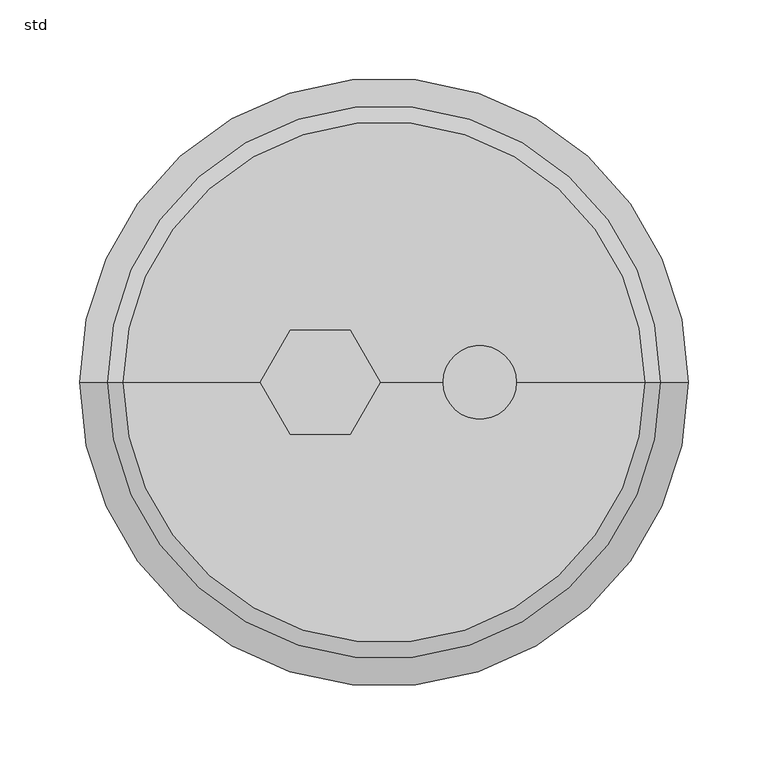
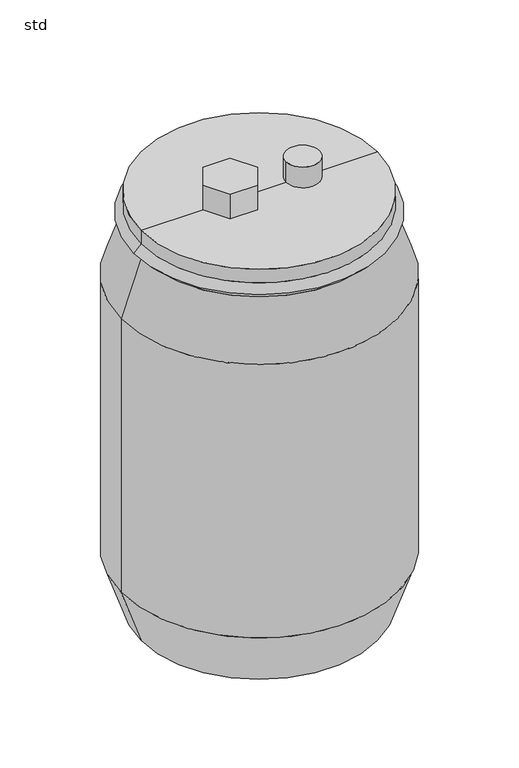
"""IFC4 building model written with IfcOpenShell, lengths in millimetres: unitary equipment geometry, ME_GEN_UN_waste drum for Lipator_ACO : std."""

from ifc_helpers import new_model, si_unit, point, frame, frame_2d, origin, origin_with_axes, place, context, project, spatial, polyline, circle_curve, trimmed, segment, composite_curve, outline, extrude, source, transform, mapped, element, save
from ifc_brep_helpers import plane_surface, cylinder_surface, revolved_surface, advanced_brep


def std_59afe5f4(model_context):
    return source(origin(), model_context, "Body", "SolidModel", [
        extrude(outline(polyline([(-77.5277675, 0.0), (-58.7638837, 32.5), (-21.2361163, 32.5), (-2.4722325, 0.0), (-21.2361163, -32.5), (-58.7638837, -32.5), (-77.5277675, 0.0)])), frame((0.0, 0.0, 597.7678069), z_axis=(0.0, 0.0, 1.0), x_axis=(1.0, 0.0, 0.0)), (0.0, 0.0, 1.0), 35.8401119),
        extrude(outline(composite_curve([segment(trimmed(circle_curve(frame_2d((60.0, 0.0)), 23.0), [point((37.0, 0.0))], [point((83.0, 0.0))], False, "CARTESIAN"), True, "CONTINUOUS"), segment(trimmed(circle_curve(frame_2d((60.0, 0.0)), 23.0), [point((83.0, 0.0))], [point((37.0, 0.0))], False, "CARTESIAN"), True, "CONTINUOUS")], self_intersect=False)), frame((0.0, 0.0, 597.7678069), z_axis=(0.0, 0.0, 1.0), x_axis=(1.0, 0.0, 0.0)), (0.0, 0.0, 1.0), 29.8669632),
        advanced_brep(
        [(0.0, 0.0, 597.7678069), (163.2738307, 0.0, 597.7678069), (-163.2738307, 0.0, 597.7678069), (-163.2726161, 0.0, 557.9476186), (163.2726161, 0.0, 557.9476186), (0.0, 0.0, 557.9476186), (-173.2294851, 0.0, 567.9044875), (173.2294851, 0.0, 567.9044875), (-163.2738307, 0.0, 577.8601419), (163.2738307, 0.0, 577.8601419)],
        [
            (0, 1),
            (1, 2, circle_curve(frame((0.0, 0.0, 597.7678069), z_axis=(0.0, 0.0, 1.0), x_axis=(1.0, 0.0, 0.0)), 163.2738307)),
            (2, 0),
            (2, 1, circle_curve(frame((0.0, 0.0, 597.7678069), z_axis=(0.0, 0.0, 1.0), x_axis=(1.0, 0.0, 0.0)), 163.2738307)),
            (3, 4, circle_curve(frame((0.0, 0.0, 557.9476186), z_axis=(0.0, 0.0, -1.0), x_axis=(1.0, 0.0, 0.0)), 163.2726161)),
            (4, 5),
            (5, 3),
            (4, 3, circle_curve(frame((0.0, 0.0, 557.9476186), z_axis=(0.0, 0.0, -1.0), x_axis=(1.0, 0.0, 0.0)), 163.2726161)),
            (6, 7, circle_curve(frame((0.0, 0.0, 567.9044875), z_axis=(0.0, 0.0, -1.0), x_axis=(1.0, 0.0, 0.0)), 173.2294851)),
            (7, 4),
            (3, 6),
            (7, 6, circle_curve(frame((0.0, 0.0, 567.9044875), z_axis=(0.0, 0.0, -1.0), x_axis=(1.0, 0.0, 0.0)), 173.2294851)),
            (8, 9, circle_curve(frame((0.0, 0.0, 577.8601419), z_axis=(0.0, 0.0, -1.0), x_axis=(1.0, 0.0, 0.0)), 163.2738307)),
            (9, 7),
            (6, 8),
            (9, 8, circle_curve(frame((0.0, 0.0, 577.8601419), z_axis=(0.0, 0.0, -1.0), x_axis=(1.0, 0.0, 0.0)), 163.2738307)),
            (1, 9),
            (8, 2),
        ],
        [
            plane_surface(frame((0.0, 0.0, 597.7678069), z_axis=(0.0, 0.0, 1.0), x_axis=(1.0, 0.0, 0.0))),
            plane_surface(frame((0.0, 0.0, 557.9476186), z_axis=(0.0, 0.0, -1.0), x_axis=(1.0, 0.0, 0.0))),
            revolved_surface(polyline([(163.2726161, 0.0, 557.9476186), (173.2294851, 0.0, 567.9044875)]), (0.0, 0.0, 723.3975827), (0.0, 0.0, 1.0)),
            revolved_surface(polyline([(173.2294851, 0.0, 567.9044875), (163.2738307, 0.0, 577.8601419)]), (0.0, 0.0, 723.3975827), (0.0, 0.0, 1.0)),
            cylinder_surface(frame((0.0, 0.0, 723.3975827), z_axis=(0.0, 0.0, 1.0), x_axis=(1.0, 0.0, 0.0)), 163.2738307),
        ],
        [
            (0, [[1, 2, 3]]),
            (0, [[-3, 4, -1]]),
            (1, [[5, 6, 7]]),
            (1, [[8, -7, -6]]),
            (2, [[9, 10, -5, 11]]),
            (2, [[12, -11, -8, -10]]),
            (3, [[13, 14, -9, 15]]),
            (3, [[16, -15, -12, -14]]),
            (4, [[-2, 17, -13, 18]]),
            (4, [[-4, -18, -16, -17]]),
        ],
    ),
        advanced_brep(
        [(-190.6518803, 0.0, 79.4950921), (190.6518803, 0.0, 79.4950921), (163.279525, 0.0, 0.0), (-163.279525, 0.0, 0.0), (-190.6518803, 0.0, 478.358584), (190.6518803, 0.0, 478.358584), (-163.247178, 0.0, 557.9476186), (163.247178, 0.0, 557.9476186), (0.0, 0.0, 557.9476186), (0.0, 0.0, 0.0)],
        [
            (0, 1, circle_curve(frame((0.0, 0.0, 79.4950921), z_axis=(0.0, 0.0, -1.0), x_axis=(1.0, 0.0, 0.0)), 190.6518803)),
            (1, 2),
            (2, 3, circle_curve(origin_with_axes(), 163.279525)),
            (3, 0),
            (1, 0, circle_curve(frame((0.0, 0.0, 79.4950921), z_axis=(0.0, 0.0, -1.0), x_axis=(1.0, 0.0, 0.0)), 190.6518803)),
            (3, 2, circle_curve(origin_with_axes(), 163.279525)),
            (4, 5, circle_curve(frame((0.0, 0.0, 478.358584), z_axis=(0.0, 0.0, -1.0), x_axis=(1.0, 0.0, 0.0)), 190.6518803)),
            (5, 1),
            (0, 4),
            (5, 4, circle_curve(frame((0.0, 0.0, 478.358584), z_axis=(0.0, 0.0, -1.0), x_axis=(1.0, 0.0, 0.0)), 190.6518803)),
            (6, 7, circle_curve(frame((0.0, 0.0, 557.9476186), z_axis=(0.0, 0.0, -1.0), x_axis=(1.0, 0.0, 0.0)), 163.247178)),
            (7, 5),
            (4, 6),
            (7, 6, circle_curve(frame((0.0, 0.0, 557.9476186), z_axis=(0.0, 0.0, -1.0), x_axis=(1.0, 0.0, 0.0)), 163.247178)),
            (8, 7),
            (6, 8),
            (2, 9),
            (9, 3),
        ],
        [
            revolved_surface(polyline([(163.279525, 0.0, 0.0), (190.6518803, 0.0, 79.4950921)]), (0.0, 0.0, 1120.0), (0.0, 0.0, 1.0)),
            cylinder_surface(frame((0.0, 0.0, 1120.0), z_axis=(0.0, 0.0, 1.0), x_axis=(1.0, 0.0, 0.0)), 190.6518803),
            revolved_surface(polyline([(190.6518803, 0.0, 478.358584), (163.247178, 0.0, 557.9476186)]), (0.0, 0.0, 1120.0), (0.0, 0.0, 1.0)),
            plane_surface(frame((0.0, 0.0, 557.9476186), z_axis=(0.0, 0.0, 1.0), x_axis=(1.0, 0.0, 0.0))),
            plane_surface(frame((0.0, 0.0, 0.0), z_axis=(0.0, 0.0, -1.0), x_axis=(1.0, 0.0, 0.0))),
        ],
        [
            (0, [[1, 2, 3, 4]]),
            (0, [[5, -4, 6, -2]]),
            (1, [[7, 8, -1, 9]]),
            (1, [[10, -9, -5, -8]]),
            (2, [[11, 12, -7, 13]]),
            (2, [[14, -13, -10, -12]]),
            (3, [[15, -11, 16]]),
            (3, [[-16, -14, -15]]),
            (4, [[-3, 17, 18]]),
            (4, [[-6, -18, -17]]),
        ],
    ),
    ])


if __name__ == "__main__":
    model = new_model("IFC4")
    model_context = context("Model", 3, world=origin())
    ifc_project = project(units=[si_unit("LENGTHUNIT", "METRE", prefix="MILLI")], contexts=[model_context])
    site = spatial("IfcSite", under=ifc_project)
    building = spatial("IfcBuilding", under=site)
    placement = place(None, origin())
    std_shape = std_59afe5f4(model_context)
    element("IfcUnitaryEquipment", 1, ObjectType="ME_GEN_UN_waste drum for Lipator_ACO : std", at=placement, inside=building, context=model_context, shape_type="MappedRepresentation", body=[
        mapped(std_shape, transform((0.0, 0.0, 0.0), x_axis=(1.0, 0.0, 0.0), y_axis=(0.0, 1.0, 0.0), z_axis=(0.0, 0.0, 1.0))),
    ])
    save(model, "model.ifc")
